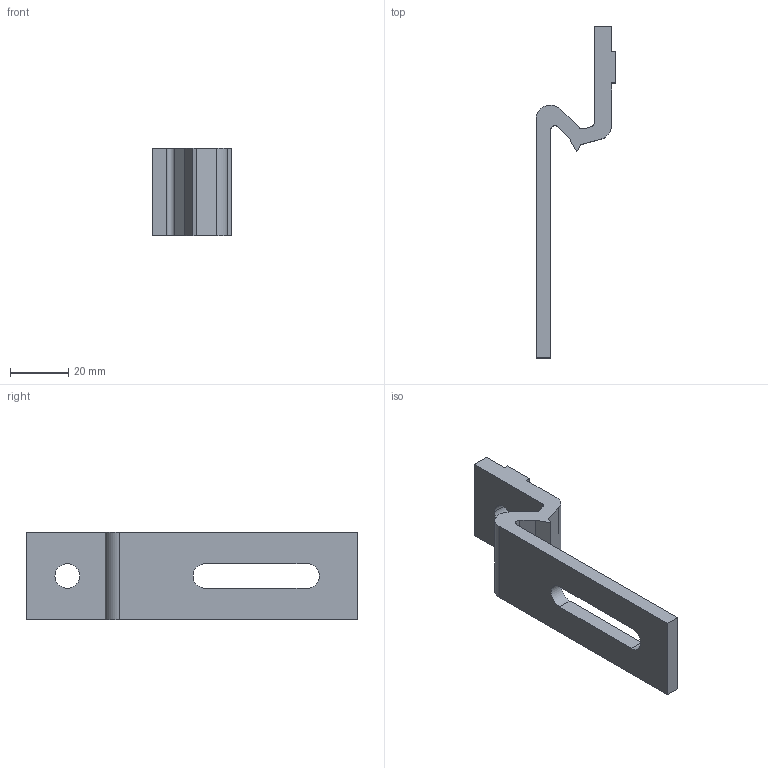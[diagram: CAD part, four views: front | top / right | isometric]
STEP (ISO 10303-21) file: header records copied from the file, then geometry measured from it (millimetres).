
FILE_DESCRIPTION (( 'STEP AP214' ), '1' );
FILE_NAME ('FADB 21x100.step', '2017-04-05T07:55:09', ( '' ), ( '' ), 'SwSTEP 2.0', 'SolidWorks 2015', '' );
FILE_SCHEMA (( 'AUTOMOTIVE_DESIGN' ));
Length unit declared in the file: millimetre
Products named in the file (1): FADB 21x100
Bounding box: 27.5 x 114.2 x 30 mm (x, y, z)
Volume: 21096 mm3; surface area: 10397.3 mm2
Topology: 1 solids, 1 shells, 30 faces, 84 edges, 56 vertices
Faces by surface type: plane 20, cylinder 10
Entity records: 1010 total; most frequent: CARTESIAN_POINT 171, ORIENTED_EDGE 168, DIRECTION 166, EDGE_CURVE 84, VECTOR 64, LINE 64, VERTEX_POINT 56, AXIS2_PLACEMENT_3D 51
